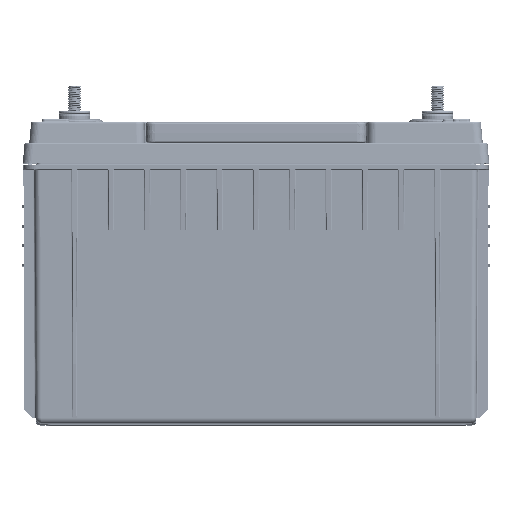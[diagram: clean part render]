
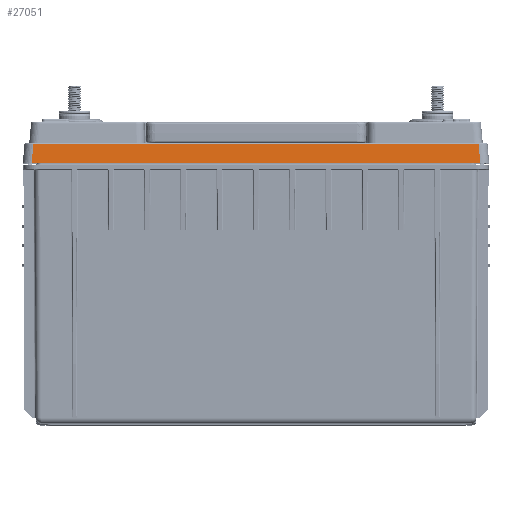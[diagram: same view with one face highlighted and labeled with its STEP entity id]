
A CAD part, top view. The second image highlights one B-rep face of the part: STEP entity #27051.
In plain terms, the highlighted planar face has unit normal (0, 0.087, 0.996).
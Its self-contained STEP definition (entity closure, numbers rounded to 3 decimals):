
#8682 = LINE ( 'NONE', #17192, #218508 ) ;
#11260 = EDGE_CURVE ( 'NONE', #182004, #226307, #143232, .T. ) ;
#17192 = CARTESIAN_POINT ( 'NONE',  ( -6.178, 7.827, 3.347 ) ) ;
#18831 = ORIENTED_EDGE ( 'NONE', *, *, #22318, .T. ) ;
#19929 = CARTESIAN_POINT ( 'NONE',  ( 6.225, 7.288, 3.394 ) ) ;
#22318 = EDGE_CURVE ( 'NONE', #249048, #300722, #190210, .T. ) ;
#27051 = ADVANCED_FACE ( 'NONE', ( #141230 ), #177607, .T. ) ;
#76681 = DIRECTION ( 'NONE',  ( 0., 0.087, 0.996 ) ) ;
#96061 = VECTOR ( 'NONE', #342073, 39.37 ) ;
#134812 = CARTESIAN_POINT ( 'NONE',  ( -6.176, 7.811, 3.348 ) ) ;
#141230 = FACE_OUTER_BOUND ( 'NONE', #334198, .T. ) ;
#143232 = LINE ( 'NONE', #134812, #395282 ) ;
#154407 = LINE ( 'NONE', #253260, #96061 ) ;
#177607 = PLANE ( 'NONE',  #420315 ) ;
#178079 = ORIENTED_EDGE ( 'NONE', *, *, #217058, .T. ) ;
#182004 = VERTEX_POINT ( 'NONE', #328883 ) ;
#190210 = LINE ( 'NONE', #194407, #295631 ) ;
#194407 = CARTESIAN_POINT ( 'NONE',  ( -6.425, 7.288, 3.394 ) ) ;
#205530 = DIRECTION ( 'NONE',  ( -1., 0., 0. ) ) ;
#207756 = DIRECTION ( 'NONE',  ( 0., -0.996, 0.087 ) ) ;
#217058 = EDGE_CURVE ( 'NONE', #226307, #249048, #8682, .T. ) ;
#218508 = VECTOR ( 'NONE', #238585, 39.37 ) ;
#226307 = VERTEX_POINT ( 'NONE', #231917 ) ;
#231917 = CARTESIAN_POINT ( 'NONE',  ( -6.179, 7.811, 3.348 ) ) ;
#232379 = ORIENTED_EDGE ( 'NONE', *, *, #11260, .T. ) ;
#238585 = DIRECTION ( 'NONE',  ( -0.087, -0.992, 0.087 ) ) ;
#249048 = VERTEX_POINT ( 'NONE', #330268 ) ;
#253260 = CARTESIAN_POINT ( 'NONE',  ( 6.081, 8.934, 3.25 ) ) ;
#272319 = CARTESIAN_POINT ( 'NONE',  ( -6.425, 7.848, 3.345 ) ) ;
#279535 = ORIENTED_EDGE ( 'NONE', *, *, #312720, .T. ) ;
#282833 = DIRECTION ( 'NONE',  ( 1., 0., 0. ) ) ;
#295631 = VECTOR ( 'NONE', #282833, 39.37 ) ;
#300722 = VERTEX_POINT ( 'NONE', #19929 ) ;
#312720 = EDGE_CURVE ( 'NONE', #300722, #182004, #154407, .T. ) ;
#328883 = CARTESIAN_POINT ( 'NONE',  ( 6.179, 7.811, 3.348 ) ) ;
#330268 = CARTESIAN_POINT ( 'NONE',  ( -6.225, 7.288, 3.394 ) ) ;
#334198 = EDGE_LOOP ( 'NONE', ( #279535, #232379, #178079, #18831 ) ) ;
#342073 = DIRECTION ( 'NONE',  ( -0.087, 0.992, -0.087 ) ) ;
#395282 = VECTOR ( 'NONE', #205530, 39.37 ) ;
#420315 = AXIS2_PLACEMENT_3D ( 'NONE', #272319, #76681, #207756 ) ;
